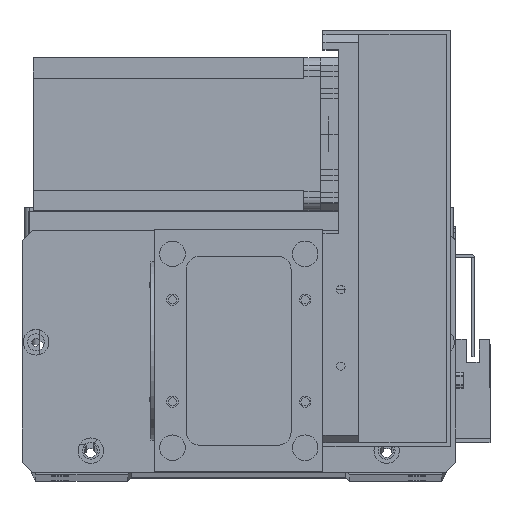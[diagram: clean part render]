
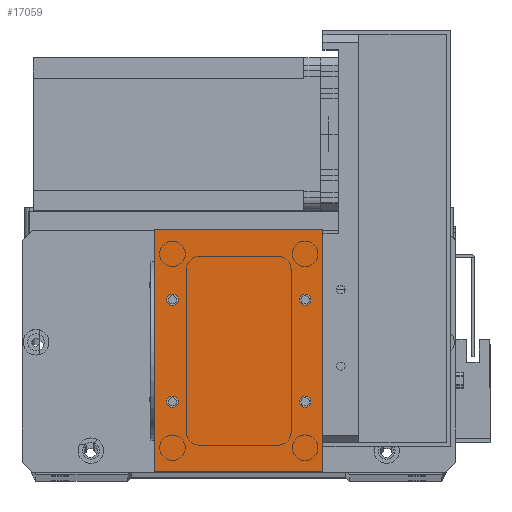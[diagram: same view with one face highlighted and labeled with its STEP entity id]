
A CAD part, top view. The second image highlights one B-rep face of the part: STEP entity #17059.
In plain terms, the highlighted planar face has unit normal (0, 0, 1).
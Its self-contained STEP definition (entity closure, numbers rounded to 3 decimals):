
#359 = EDGE_CURVE ( 'NONE', #11280, #6158, #22556, .T. ) ;
#428 = CARTESIAN_POINT ( 'NONE',  ( 9.25, 67.5, 2. ) ) ;
#596 = ORIENTED_EDGE ( 'NONE', *, *, #19748, .T. ) ;
#635 = CARTESIAN_POINT ( 'NONE',  ( 0., 0., 2. ) ) ;
#1072 = EDGE_CURVE ( 'NONE', #29503, #2079, #5253, .T. ) ;
#1081 = CARTESIAN_POINT ( 'NONE',  ( 56.75, 27.5, 2. ) ) ;
#2050 = AXIS2_PLACEMENT_3D ( 'NONE', #8115, #25655, #10676 ) ;
#2079 = VERTEX_POINT ( 'NONE', #11440 ) ;
#2331 = DIRECTION ( 'NONE',  ( 0., 0., 1. ) ) ;
#2515 = CARTESIAN_POINT ( 'NONE',  ( 9.25, 27.5, 2. ) ) ;
#3028 = EDGE_CURVE ( 'NONE', #30601, #19036, #20561, .T. ) ;
#3308 = AXIS2_PLACEMENT_3D ( 'NONE', #17423, #2331, #19918 ) ;
#3443 = ORIENTED_EDGE ( 'NONE', *, *, #12169, .F. ) ;
#4152 = AXIS2_PLACEMENT_3D ( 'NONE', #20105, #5003, #22554 ) ;
#4190 = CARTESIAN_POINT ( 'NONE',  ( 0., 0., 2. ) ) ;
#4630 = EDGE_LOOP ( 'NONE', ( #27743, #22709 ) ) ;
#4973 = EDGE_LOOP ( 'NONE', ( #13368, #3443 ) ) ;
#5003 = DIRECTION ( 'NONE',  ( 0., 0., -1. ) ) ;
#5033 = VERTEX_POINT ( 'NONE', #28713 ) ;
#5253 = CIRCLE ( 'NONE', #22996, 2.25 ) ;
#5590 = EDGE_CURVE ( 'NONE', #5033, #20817, #31304, .T. ) ;
#6054 = FACE_BOUND ( 'NONE', #20650, .T. ) ;
#6158 = VERTEX_POINT ( 'NONE', #26379 ) ;
#6493 = DIRECTION ( 'NONE',  ( -1., 0., 0. ) ) ;
#6528 = DIRECTION ( 'NONE',  ( 0., -1., 0. ) ) ;
#6537 = CARTESIAN_POINT ( 'NONE',  ( 0., 0., 2. ) ) ;
#6721 = DIRECTION ( 'NONE',  ( 1., 0., 0. ) ) ;
#6873 = ORIENTED_EDGE ( 'NONE', *, *, #19933, .F. ) ;
#7374 = CARTESIAN_POINT ( 'NONE',  ( 61.25, 67.5, 2. ) ) ;
#7544 = CARTESIAN_POINT ( 'NONE',  ( 7., 67.5, 2. ) ) ;
#8115 = CARTESIAN_POINT ( 'NONE',  ( 7., 27.5, 2. ) ) ;
#9195 = VERTEX_POINT ( 'NONE', #11131 ) ;
#9698 = DIRECTION ( 'NONE',  ( 1., 0., 0. ) ) ;
#9973 = DIRECTION ( 'NONE',  ( 0., 0., 1. ) ) ;
#10084 = DIRECTION ( 'NONE',  ( 1., 0., 0. ) ) ;
#10295 = CARTESIAN_POINT ( 'NONE',  ( 59., 27.5, 2. ) ) ;
#10531 = EDGE_CURVE ( 'NONE', #20817, #9195, #15095, .T. ) ;
#10676 = DIRECTION ( 'NONE',  ( 1., 0., 0. ) ) ;
#11080 = LINE ( 'NONE', #12766, #24397 ) ;
#11131 = CARTESIAN_POINT ( 'NONE',  ( 66., 0., 2. ) ) ;
#11145 = CARTESIAN_POINT ( 'NONE',  ( 59., 27.5, 2. ) ) ;
#11230 = ORIENTED_EDGE ( 'NONE', *, *, #5590, .T. ) ;
#11280 = VERTEX_POINT ( 'NONE', #2515 ) ;
#11328 = CARTESIAN_POINT ( 'NONE',  ( 61.25, 27.5, 2. ) ) ;
#11378 = EDGE_LOOP ( 'NONE', ( #11230, #22276, #28702, #596 ) ) ;
#11408 = VECTOR ( 'NONE', #6528, 1000. ) ;
#11440 = CARTESIAN_POINT ( 'NONE',  ( 4.75, 67.5, 2. ) ) ;
#11491 = DIRECTION ( 'NONE',  ( 0., 0., 1. ) ) ;
#12104 = AXIS2_PLACEMENT_3D ( 'NONE', #11145, #28571, #13661 ) ;
#12169 = EDGE_CURVE ( 'NONE', #19036, #30601, #12629, .T. ) ;
#12366 = CARTESIAN_POINT ( 'NONE',  ( 7., 27.5, 2. ) ) ;
#12629 = CIRCLE ( 'NONE', #12104, 2.25 ) ;
#12766 = CARTESIAN_POINT ( 'NONE',  ( 66., 0., 2. ) ) ;
#12828 = VERTEX_POINT ( 'NONE', #24221 ) ;
#13049 = EDGE_CURVE ( 'NONE', #2079, #29503, #28123, .T. ) ;
#13368 = ORIENTED_EDGE ( 'NONE', *, *, #3028, .F. ) ;
#13661 = DIRECTION ( 'NONE',  ( 1., 0., 0. ) ) ;
#14240 = CIRCLE ( 'NONE', #3308, 2.25 ) ;
#14655 = VECTOR ( 'NONE', #6493, 1000. ) ;
#15053 = PLANE ( 'NONE',  #4152 ) ;
#15095 = LINE ( 'NONE', #4190, #27504 ) ;
#15310 = DIRECTION ( 'NONE',  ( 0., 1., 0. ) ) ;
#15611 = CARTESIAN_POINT ( 'NONE',  ( 66., 95., 2. ) ) ;
#15887 = AXIS2_PLACEMENT_3D ( 'NONE', #12366, #11491, #9698 ) ;
#16560 = VERTEX_POINT ( 'NONE', #15611 ) ;
#16562 = EDGE_CURVE ( 'NONE', #6158, #11280, #26072, .T. ) ;
#17059 = ADVANCED_FACE ( 'NONE', ( #25275, #6054, #31081, #18677, #31840 ), #15053, .F. ) ;
#17423 = CARTESIAN_POINT ( 'NONE',  ( 59., 67.5, 2. ) ) ;
#18677 = FACE_BOUND ( 'NONE', #4630, .T. ) ;
#19036 = VERTEX_POINT ( 'NONE', #1081 ) ;
#19702 = ORIENTED_EDGE ( 'NONE', *, *, #25883, .F. ) ;
#19742 = AXIS2_PLACEMENT_3D ( 'NONE', #10295, #22338, #32417 ) ;
#19748 = EDGE_CURVE ( 'NONE', #16560, #5033, #21321, .T. ) ;
#19918 = DIRECTION ( 'NONE',  ( 1., 0., 0. ) ) ;
#19933 = EDGE_CURVE ( 'NONE', #12828, #26500, #14240, .T. ) ;
#20088 = EDGE_CURVE ( 'NONE', #9195, #16560, #11080, .T. ) ;
#20105 = CARTESIAN_POINT ( 'NONE',  ( 0., 0., 2. ) ) ;
#20496 = AXIS2_PLACEMENT_3D ( 'NONE', #24970, #9973, #27409 ) ;
#20561 = CIRCLE ( 'NONE', #19742, 2.25 ) ;
#20650 = EDGE_LOOP ( 'NONE', ( #19702, #6873 ) ) ;
#20817 = VERTEX_POINT ( 'NONE', #635 ) ;
#21321 = LINE ( 'NONE', #21552, #14655 ) ;
#21329 = CIRCLE ( 'NONE', #20496, 2.25 ) ;
#21552 = CARTESIAN_POINT ( 'NONE',  ( 0., 95., 2. ) ) ;
#22276 = ORIENTED_EDGE ( 'NONE', *, *, #10531, .T. ) ;
#22338 = DIRECTION ( 'NONE',  ( 0., 0., 1. ) ) ;
#22554 = DIRECTION ( 'NONE',  ( -1., 0., 0. ) ) ;
#22556 = CIRCLE ( 'NONE', #15887, 2.25 ) ;
#22709 = ORIENTED_EDGE ( 'NONE', *, *, #16562, .F. ) ;
#22996 = AXIS2_PLACEMENT_3D ( 'NONE', #32025, #31942, #32236 ) ;
#23187 = ORIENTED_EDGE ( 'NONE', *, *, #1072, .F. ) ;
#24221 = CARTESIAN_POINT ( 'NONE',  ( 56.75, 67.5, 2. ) ) ;
#24397 = VECTOR ( 'NONE', #15310, 1000. ) ;
#24970 = CARTESIAN_POINT ( 'NONE',  ( 59., 67.5, 2. ) ) ;
#25101 = DIRECTION ( 'NONE',  ( 0., 0., 1. ) ) ;
#25275 = FACE_BOUND ( 'NONE', #25733, .T. ) ;
#25655 = DIRECTION ( 'NONE',  ( 0., 0., 1. ) ) ;
#25733 = EDGE_LOOP ( 'NONE', ( #23187, #32127 ) ) ;
#25883 = EDGE_CURVE ( 'NONE', #26500, #12828, #21329, .T. ) ;
#26072 = CIRCLE ( 'NONE', #2050, 2.25 ) ;
#26379 = CARTESIAN_POINT ( 'NONE',  ( 4.75, 27.5, 2. ) ) ;
#26500 = VERTEX_POINT ( 'NONE', #7374 ) ;
#27409 = DIRECTION ( 'NONE',  ( 1., 0., 0. ) ) ;
#27504 = VECTOR ( 'NONE', #6721, 1000. ) ;
#27743 = ORIENTED_EDGE ( 'NONE', *, *, #359, .F. ) ;
#28123 = CIRCLE ( 'NONE', #31400, 2.25 ) ;
#28571 = DIRECTION ( 'NONE',  ( 0., 0., 1. ) ) ;
#28702 = ORIENTED_EDGE ( 'NONE', *, *, #20088, .T. ) ;
#28713 = CARTESIAN_POINT ( 'NONE',  ( 0., 95., 2. ) ) ;
#29503 = VERTEX_POINT ( 'NONE', #428 ) ;
#30601 = VERTEX_POINT ( 'NONE', #11328 ) ;
#31081 = FACE_BOUND ( 'NONE', #4973, .T. ) ;
#31304 = LINE ( 'NONE', #6537, #11408 ) ;
#31400 = AXIS2_PLACEMENT_3D ( 'NONE', #7544, #25101, #10084 ) ;
#31840 = FACE_OUTER_BOUND ( 'NONE', #11378, .T. ) ;
#31942 = DIRECTION ( 'NONE',  ( 0., 0., 1. ) ) ;
#32025 = CARTESIAN_POINT ( 'NONE',  ( 7., 67.5, 2. ) ) ;
#32127 = ORIENTED_EDGE ( 'NONE', *, *, #13049, .F. ) ;
#32236 = DIRECTION ( 'NONE',  ( 1., 0., 0. ) ) ;
#32417 = DIRECTION ( 'NONE',  ( 1., 0., 0. ) ) ;
